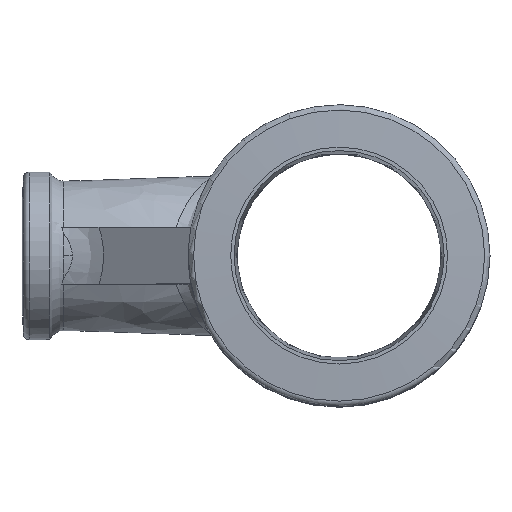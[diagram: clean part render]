
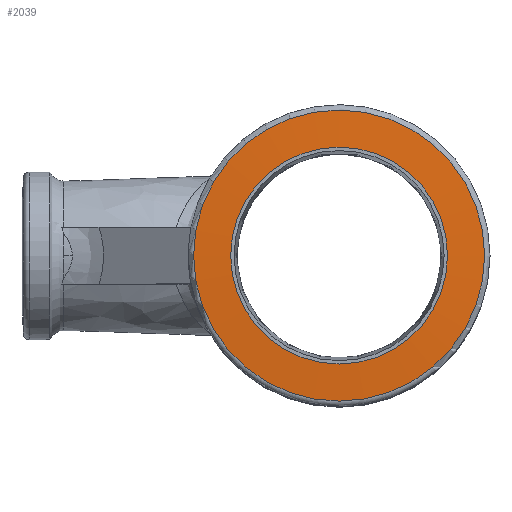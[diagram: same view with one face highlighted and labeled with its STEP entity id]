
A CAD part, top view. The second image highlights one B-rep face of the part: STEP entity #2039.
In plain terms, the highlighted conical face has half-angle 87 degrees and reference radius 22.9 mm.
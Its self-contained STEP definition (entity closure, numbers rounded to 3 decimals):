
#2012=CARTESIAN_POINT('',(0.0,0.0,29.803));
#2013=DIRECTION('',(0.0,0.0,-1.0));
#2014=DIRECTION('',(-1.0,0.0,0.0));
#2015=AXIS2_PLACEMENT_3D('',#2012,#2013,#2014);
#2016=CONICAL_SURFACE('',#2015,22.9,87.);
#2017=CARTESIAN_POINT('',(19.15,0.,30.0));
#2018=VERTEX_POINT('',#2017);
#2019=CARTESIAN_POINT('',(0.0,0.0,30.0));
#2020=DIRECTION('',(0.0,0.0,-1.0));
#2021=DIRECTION('',(-1.0,0.0,0.0));
#2022=AXIS2_PLACEMENT_3D('',#2019,#2020,#2021);
#2023=CIRCLE('',#2022,19.15);
#2024=EDGE_CURVE('',#2018,#2018,#2023,.T.);
#2025=ORIENTED_EDGE('',*,*,#2024,.T.);
#2026=EDGE_LOOP('',(#2025));
#2027=FACE_OUTER_BOUND('',#2026,.T.);
#2028=CARTESIAN_POINT('',(25.702,0.,29.657));
#2029=VERTEX_POINT('',#2028);
#2030=CARTESIAN_POINT('',(0.0,0.,29.657));
#2031=DIRECTION('',(0.0,0.0,-1.0));
#2032=DIRECTION('',(-1.0,0.0,0.0));
#2033=AXIS2_PLACEMENT_3D('',#2030,#2031,#2032);
#2034=CIRCLE('',#2033,25.702);
#2035=EDGE_CURVE('',#2029,#2029,#2034,.T.);
#2036=ORIENTED_EDGE('',*,*,#2035,.F.);
#2037=EDGE_LOOP('',(#2036));
#2038=FACE_BOUND('',#2037,.T.);
#2039=ADVANCED_FACE('',(#2027,#2038),#2016,.T.);
